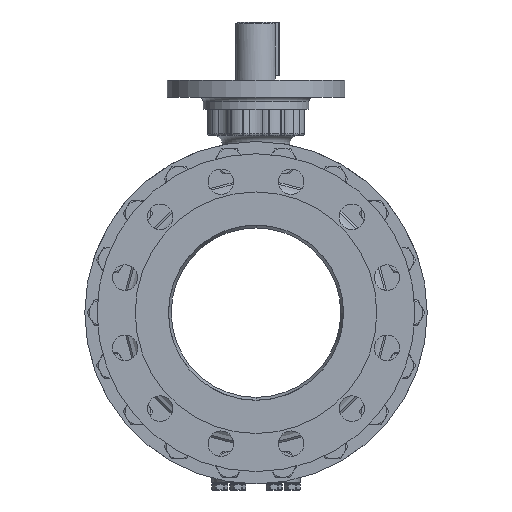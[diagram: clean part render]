
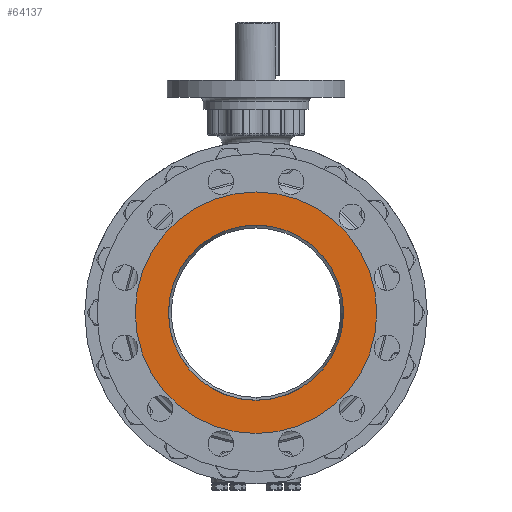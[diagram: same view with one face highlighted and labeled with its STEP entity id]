
A CAD part, left-side view. The second image highlights one B-rep face of the part: STEP entity #64137.
In plain terms, the highlighted planar face has unit normal (-1, 0, 0).
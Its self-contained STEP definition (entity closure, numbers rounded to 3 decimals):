
#2949=CARTESIAN_POINT('',(-251.,0.,0.));
#2950=DIRECTION('',(1.,0.,0.));
#2951=DIRECTION('',(0.,0.,1.));
#2952=AXIS2_PLACEMENT_3D('',#2949,#2950,#2951);
#2954=CARTESIAN_POINT('',(-251.,0.,0.));
#2955=DIRECTION('',(1.,0.,0.));
#2956=DIRECTION('',(0.,0.,-1.));
#2957=AXIS2_PLACEMENT_3D('',#2954,#2955,#2956);
#2959=CARTESIAN_POINT('',(-251.,0.,0.));
#2960=DIRECTION('',(1.,0.,0.));
#2961=DIRECTION('',(0.,0.,1.));
#2962=AXIS2_PLACEMENT_3D('',#2959,#2960,#2961);
#2964=CARTESIAN_POINT('',(-251.,0.,0.));
#2965=DIRECTION('',(-1.,0.,0.));
#2966=DIRECTION('',(0.,0.,1.));
#2967=AXIS2_PLACEMENT_3D('',#2964,#2965,#2966);
#54415=CARTESIAN_POINT('',(-251.,0.,103.35));
#54417=VERTEX_POINT('',#54415);
#54419=CARTESIAN_POINT('',(-251.,0.,-103.35));
#54421=VERTEX_POINT('',#54419);
#54450=CARTESIAN_POINT('',(-251.,0.,142.5));
#54451=CARTESIAN_POINT('',(-251.,0.,-142.5));
#54452=VERTEX_POINT('',#54450);
#54453=VERTEX_POINT('',#54451);
#64121=CARTESIAN_POINT('',(-251.,0.,0.));
#64122=DIRECTION('',(-1.,0.,0.));
#64123=DIRECTION('',(0.,0.,-1.));
#64124=AXIS2_PLACEMENT_3D('',#64121,#64122,#64123);
#64125=PLANE('',#64124);
#64127=ORIENTED_EDGE('',*,*,#64126,.T.);
#64128=ORIENTED_EDGE('',*,*,#64111,.T.);
#64129=EDGE_LOOP('',(#64127,#64128));
#64130=FACE_OUTER_BOUND('',#64129,.F.);
#64132=ORIENTED_EDGE('',*,*,#64131,.F.);
#64134=ORIENTED_EDGE('',*,*,#64133,.T.);
#64135=EDGE_LOOP('',(#64132,#64134));
#64136=FACE_BOUND('',#64135,.F.);
#64137=ADVANCED_FACE('',(#64130,#64136),#64125,.T.);
#2953=CIRCLE('',#2952,142.5);
#2958=CIRCLE('',#2957,142.5);
#2963=CIRCLE('',#2962,103.35);
#2968=CIRCLE('',#2967,103.35);
#64111=EDGE_CURVE('',#54453,#54452,#2958,.T.);
#64126=EDGE_CURVE('',#54452,#54453,#2953,.T.);
#64131=EDGE_CURVE('',#54417,#54421,#2963,.T.);
#64133=EDGE_CURVE('',#54417,#54421,#2968,.T.);
